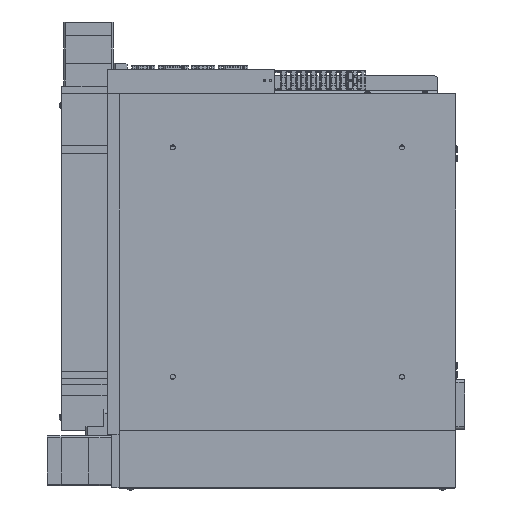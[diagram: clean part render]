
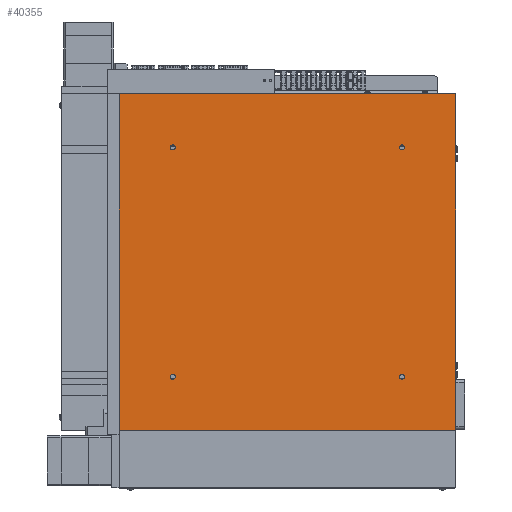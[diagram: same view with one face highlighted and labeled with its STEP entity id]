
A CAD part, front view. The second image highlights one B-rep face of the part: STEP entity #40355.
In plain terms, the highlighted planar face has unit normal (0, -1, 0).
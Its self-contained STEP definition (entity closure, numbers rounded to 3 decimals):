
#154 = ORIENTED_EDGE ( 'NONE', *, *, #7228, .T. ) ;
#1351 = ORIENTED_EDGE ( 'NONE', *, *, #34564, .T. ) ;
#2249 = EDGE_LOOP ( 'NONE', ( #154, #36039 ) ) ;
#2825 = DIRECTION ( 'NONE',  ( 0., 0., 1. ) ) ;
#2836 = VERTEX_POINT ( 'NONE', #39181 ) ;
#4114 = DIRECTION ( 'NONE',  ( 0., 1., 0. ) ) ;
#4268 = CARTESIAN_POINT ( 'NONE',  ( 150., 0., 153.3 ) ) ;
#5062 = CIRCLE ( 'NONE', #46213, 3.3 ) ;
#7228 = EDGE_CURVE ( 'NONE', #68002, #69216, #17099, .T. ) ;
#8702 = FACE_BOUND ( 'NONE', #2249, .T. ) ;
#9366 = DIRECTION ( 'NONE',  ( 0., 0., 1. ) ) ;
#10294 = PLANE ( 'NONE',  #40298 ) ;
#10853 = FACE_BOUND ( 'NONE', #60323, .T. ) ;
#11163 = AXIS2_PLACEMENT_3D ( 'NONE', #23982, #54095, #2825 ) ;
#13465 = AXIS2_PLACEMENT_3D ( 'NONE', #18772, #70384, #92566 ) ;
#14434 = CARTESIAN_POINT ( 'NONE',  ( -150., 0., -146.7 ) ) ;
#14884 = DIRECTION ( 'NONE',  ( -1., 0., 0. ) ) ;
#17099 = CIRCLE ( 'NONE', #52776, 3.3 ) ;
#17712 = VERTEX_POINT ( 'NONE', #63583 ) ;
#18772 = CARTESIAN_POINT ( 'NONE',  ( -150., 0., 150. ) ) ;
#18972 = VERTEX_POINT ( 'NONE', #76439 ) ;
#21013 = EDGE_CURVE ( 'NONE', #91157, #44781, #58185, .T. ) ;
#23982 = CARTESIAN_POINT ( 'NONE',  ( -150., 0., -150. ) ) ;
#24315 = DIRECTION ( 'NONE',  ( 0., 1., 0. ) ) ;
#28231 = ORIENTED_EDGE ( 'NONE', *, *, #93495, .T. ) ;
#29688 = EDGE_CURVE ( 'NONE', #43956, #82847, #68676, .T. ) ;
#32397 = DIRECTION ( 'NONE',  ( 0., 1., 0. ) ) ;
#32426 = DIRECTION ( 'NONE',  ( 0., 0., 1. ) ) ;
#33706 = CIRCLE ( 'NONE', #13465, 3.3 ) ;
#33925 = LINE ( 'NONE', #75523, #40820 ) ;
#34136 = ORIENTED_EDGE ( 'NONE', *, *, #48272, .T. ) ;
#34550 = VERTEX_POINT ( 'NONE', #67396 ) ;
#34564 = EDGE_CURVE ( 'NONE', #89257, #18972, #5062, .T. ) ;
#35962 = ORIENTED_EDGE ( 'NONE', *, *, #83822, .T. ) ;
#36039 = ORIENTED_EDGE ( 'NONE', *, *, #72723, .T. ) ;
#36983 = CARTESIAN_POINT ( 'NONE',  ( -220., 0., -220. ) ) ;
#37101 = CARTESIAN_POINT ( 'NONE',  ( 150., 0., -150. ) ) ;
#38177 = AXIS2_PLACEMENT_3D ( 'NONE', #76333, #24315, #38750 ) ;
#38389 = EDGE_CURVE ( 'NONE', #2836, #17712, #65394, .T. ) ;
#38750 = DIRECTION ( 'NONE',  ( 0., 0., 1. ) ) ;
#39181 = CARTESIAN_POINT ( 'NONE',  ( -220., 0., 220. ) ) ;
#39812 = ORIENTED_EDGE ( 'NONE', *, *, #83113, .F. ) ;
#40298 = AXIS2_PLACEMENT_3D ( 'NONE', #68987, #32397, #9366 ) ;
#40355 = ADVANCED_FACE ( 'NONE', ( #62616, #10853, #8702, #42981, #40672 ), #10294, .F. ) ;
#40672 = FACE_OUTER_BOUND ( 'NONE', #78986, .T. ) ;
#40820 = VECTOR ( 'NONE', #32426, 1000. ) ;
#41132 = CARTESIAN_POINT ( 'NONE',  ( 150., 0., 146.7 ) ) ;
#42296 = CARTESIAN_POINT ( 'NONE',  ( 150., 0., -150. ) ) ;
#42981 = FACE_BOUND ( 'NONE', #49930, .T. ) ;
#43956 = VERTEX_POINT ( 'NONE', #48654 ) ;
#44508 = DIRECTION ( 'NONE',  ( 0., 0., 1. ) ) ;
#44781 = VERTEX_POINT ( 'NONE', #4268 ) ;
#45038 = AXIS2_PLACEMENT_3D ( 'NONE', #42296, #71512, #78289 ) ;
#45745 = VECTOR ( 'NONE', #83351, 1000. ) ;
#46213 = AXIS2_PLACEMENT_3D ( 'NONE', #82204, #68006, #74159 ) ;
#46705 = CARTESIAN_POINT ( 'NONE',  ( 220., 0., -220. ) ) ;
#47319 = ORIENTED_EDGE ( 'NONE', *, *, #52544, .F. ) ;
#47501 = AXIS2_PLACEMENT_3D ( 'NONE', #77365, #62880, #47779 ) ;
#47533 = CARTESIAN_POINT ( 'NONE',  ( 150., 0., -146.7 ) ) ;
#47779 = DIRECTION ( 'NONE',  ( 0., 0., 1. ) ) ;
#48168 = CARTESIAN_POINT ( 'NONE',  ( -220., 0., -220. ) ) ;
#48272 = EDGE_CURVE ( 'NONE', #65053, #34550, #33706, .T. ) ;
#48654 = CARTESIAN_POINT ( 'NONE',  ( 220., 0., -220. ) ) ;
#48841 = CARTESIAN_POINT ( 'NONE',  ( -150., 0., 146.7 ) ) ;
#49758 = AXIS2_PLACEMENT_3D ( 'NONE', #54108, #4114, #77282 ) ;
#49930 = EDGE_LOOP ( 'NONE', ( #28231, #63926 ) ) ;
#50324 = CIRCLE ( 'NONE', #45038, 3.3 ) ;
#51053 = CARTESIAN_POINT ( 'NONE',  ( -220., 0., 220. ) ) ;
#51172 = CARTESIAN_POINT ( 'NONE',  ( 150., 0., -153.3 ) ) ;
#52544 = EDGE_CURVE ( 'NONE', #82847, #2836, #33925, .T. ) ;
#52776 = AXIS2_PLACEMENT_3D ( 'NONE', #37101, #66355, #44508 ) ;
#54095 = DIRECTION ( 'NONE',  ( 0., 1., 0. ) ) ;
#54108 = CARTESIAN_POINT ( 'NONE',  ( 150., 0., 150. ) ) ;
#55992 = ORIENTED_EDGE ( 'NONE', *, *, #29688, .F. ) ;
#58185 = CIRCLE ( 'NONE', #38177, 3.3 ) ;
#60323 = EDGE_LOOP ( 'NONE', ( #1351, #82509 ) ) ;
#62616 = FACE_BOUND ( 'NONE', #73337, .T. ) ;
#62880 = DIRECTION ( 'NONE',  ( 0., 1., 0. ) ) ;
#62969 = VECTOR ( 'NONE', #14884, 1000. ) ;
#63583 = CARTESIAN_POINT ( 'NONE',  ( 220., 0., 220. ) ) ;
#63926 = ORIENTED_EDGE ( 'NONE', *, *, #21013, .T. ) ;
#65053 = VERTEX_POINT ( 'NONE', #48841 ) ;
#65394 = LINE ( 'NONE', #51053, #74622 ) ;
#66089 = EDGE_CURVE ( 'NONE', #18972, #89257, #91203, .T. ) ;
#66355 = DIRECTION ( 'NONE',  ( 0., 1., 0. ) ) ;
#67396 = CARTESIAN_POINT ( 'NONE',  ( -150., 0., 153.3 ) ) ;
#68002 = VERTEX_POINT ( 'NONE', #47533 ) ;
#68006 = DIRECTION ( 'NONE',  ( 0., 1., 0. ) ) ;
#68676 = LINE ( 'NONE', #36983, #62969 ) ;
#68987 = CARTESIAN_POINT ( 'NONE',  ( 0., 0., 0. ) ) ;
#69216 = VERTEX_POINT ( 'NONE', #51172 ) ;
#70155 = CIRCLE ( 'NONE', #49758, 3.3 ) ;
#70384 = DIRECTION ( 'NONE',  ( 0., 1., 0. ) ) ;
#71512 = DIRECTION ( 'NONE',  ( 0., 1., 0. ) ) ;
#72723 = EDGE_CURVE ( 'NONE', #69216, #68002, #50324, .T. ) ;
#73319 = CIRCLE ( 'NONE', #47501, 3.3 ) ;
#73337 = EDGE_LOOP ( 'NONE', ( #35962, #34136 ) ) ;
#74159 = DIRECTION ( 'NONE',  ( 0., 0., 1. ) ) ;
#74622 = VECTOR ( 'NONE', #80968, 1000. ) ;
#75523 = CARTESIAN_POINT ( 'NONE',  ( -220., 0., -220. ) ) ;
#76333 = CARTESIAN_POINT ( 'NONE',  ( 150., 0., 150. ) ) ;
#76439 = CARTESIAN_POINT ( 'NONE',  ( -150., 0., -153.3 ) ) ;
#77282 = DIRECTION ( 'NONE',  ( 0., 0., 1. ) ) ;
#77365 = CARTESIAN_POINT ( 'NONE',  ( -150., 0., 150. ) ) ;
#78289 = DIRECTION ( 'NONE',  ( 0., 0., 1. ) ) ;
#78986 = EDGE_LOOP ( 'NONE', ( #47319, #55992, #39812, #81016 ) ) ;
#80968 = DIRECTION ( 'NONE',  ( 1., 0., 0. ) ) ;
#81016 = ORIENTED_EDGE ( 'NONE', *, *, #38389, .F. ) ;
#82204 = CARTESIAN_POINT ( 'NONE',  ( -150., 0., -150. ) ) ;
#82509 = ORIENTED_EDGE ( 'NONE', *, *, #66089, .T. ) ;
#82847 = VERTEX_POINT ( 'NONE', #48168 ) ;
#83113 = EDGE_CURVE ( 'NONE', #17712, #43956, #86003, .T. ) ;
#83351 = DIRECTION ( 'NONE',  ( 0., 0., -1. ) ) ;
#83822 = EDGE_CURVE ( 'NONE', #34550, #65053, #73319, .T. ) ;
#86003 = LINE ( 'NONE', #46705, #45745 ) ;
#89257 = VERTEX_POINT ( 'NONE', #14434 ) ;
#91157 = VERTEX_POINT ( 'NONE', #41132 ) ;
#91203 = CIRCLE ( 'NONE', #11163, 3.3 ) ;
#92566 = DIRECTION ( 'NONE',  ( 0., 0., 1. ) ) ;
#93495 = EDGE_CURVE ( 'NONE', #44781, #91157, #70155, .T. ) ;
